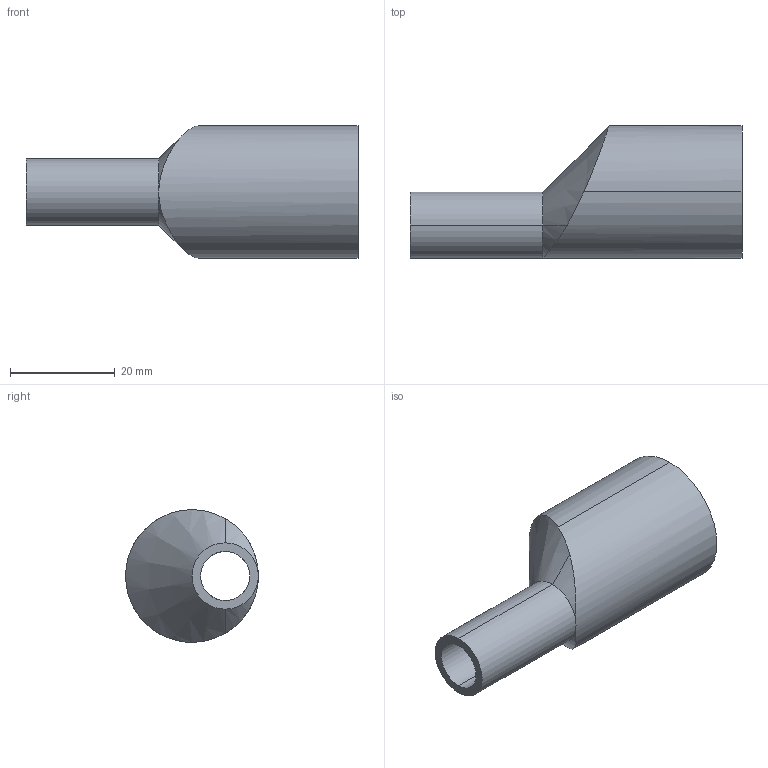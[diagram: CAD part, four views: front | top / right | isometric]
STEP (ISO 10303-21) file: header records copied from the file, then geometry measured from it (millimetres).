
FILE_DESCRIPTION (( 'STEP AP214' ), '1' );
FILE_NAME ('TE32SWW6L1.0x.5-...STEP', '2016-06-01T04:53:08', ( 'eran' ), ( '' ), 'SwSTEP 2.0', 'SolidWorks 2016', '' );
FILE_SCHEMA (( 'AUTOMOTIVE_DESIGN' ));
Length unit declared in the file: millimetre
Products named in the file (1): TE32SWW6L1.0x.5-..
Bounding box: 63.5 x 25.4 x 25.4 mm (x, y, z)
Volume: 11077.5 mm3; surface area: 6874.8 mm2
Topology: 1 solids, 1 shells, 16 faces, 36 edges, 22 vertices
Faces by surface type: cylinder 8, cone 5, plane 3
Entity records: 635 total; most frequent: CARTESIAN_POINT 242, DIRECTION 77, ORIENTED_EDGE 72, EDGE_CURVE 36, AXIS2_PLACEMENT_3D 33, VERTEX_POINT 22, EDGE_LOOP 18, FACE_OUTER_BOUND 16
